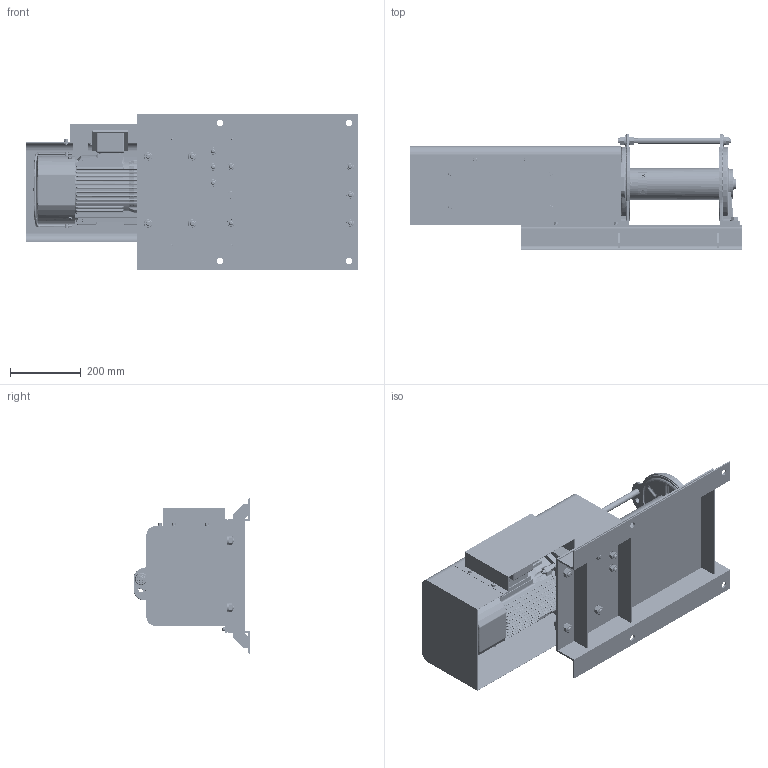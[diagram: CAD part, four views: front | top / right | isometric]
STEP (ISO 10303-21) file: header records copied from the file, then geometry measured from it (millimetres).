
FILE_DESCRIPTION( (''), '2;1');
FILE_NAME ('GLF-1400.stp','2023-05-30T17:38:55',(''),(''),'spGate 19.8.2 (****-****-****-****)','','');
FILE_SCHEMA (('AUTOMOTIVE_DESIGN'));
Length unit declared in the file: millimetre
Products named in the file (6): Assembly; GLF-1400-prt0; GLF-1400-prt1; GLF-1400-prt2; GLF-1400-prt3; GLF-1400-prt4
Assembly tree (5 placements, depth 2):
  Assembly
    GLF-1400-prt0
    GLF-1400-prt1
    GLF-1400-prt2
    GLF-1400-prt3
    GLF-1400-prt4
Bounding box: 940.5 x 331 x 440 mm (x, y, z)
Volume: 20360853.5 mm3; surface area: 3372308.3 mm2
Topology: 2 solids, 2 shells, 5589 faces, 14621 edges, 8950 vertices
Faces by surface type: cylinder 1967, bspline 1886, plane 1634, sphere 102
Entity records: 427605 total; most frequent: CARTESIAN_POINT 194216, ORIENTED_EDGE 28578, DIRECTION 21663, COLOUR_RGB 19883, PRESENTATION_STYLE_ASSIGNMENT 19883, STYLED_ITEM 19883, EDGE_CURVE 14289, DRAUGHTING_PRE_DEFINED_CURVE_FONT 14289
